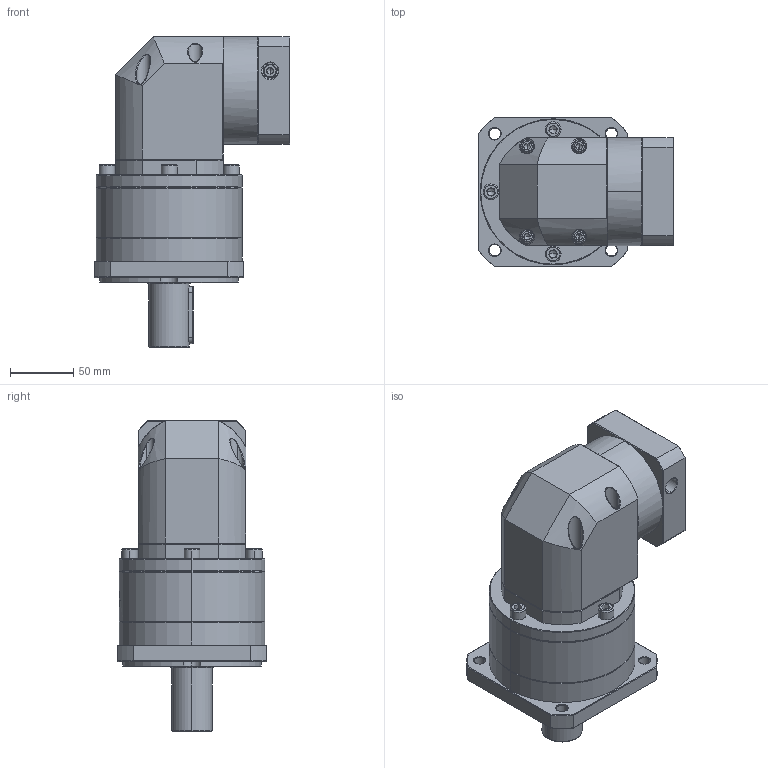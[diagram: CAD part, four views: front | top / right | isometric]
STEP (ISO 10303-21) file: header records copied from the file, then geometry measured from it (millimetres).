
FILE_DESCRIPTION (( 'STEP AP214' ), '1' );
FILE_NAME ('ZFR120A-D32-L2-P2-19-70-90-M6.step', '2023-08-27T09:18:53', ( '' ), ( '' ), 'SwSTEP 2.0', 'SolidWorks 2016', '' );
FILE_SCHEMA (( 'AUTOMOTIVE_DESIGN' ));
Length unit declared in the file: millimetre
Products named in the file (1): ZFR120A-D32-L2-P2-19-70-90-M6
Bounding box: 154.1 x 118 x 245 mm (x, y, z)
Volume: 1870853 mm3; surface area: 172150.8 mm2
Topology: 6 solids, 6 shells, 2394 faces, 6258 edges, 3970 vertices
Faces by surface type: plane 1155, cylinder 453, bspline 443, cone 329, torus 14
Entity records: 130170 total; most frequent: CARTESIAN_POINT 50727, ORIENTED_EDGE 12424, DIRECTION 9149, EDGE_CURVE 6212, VERTEX_POINT 3970, VECTOR 3339, LINE 3339, AXIS2_PLACEMENT_3D 2905
